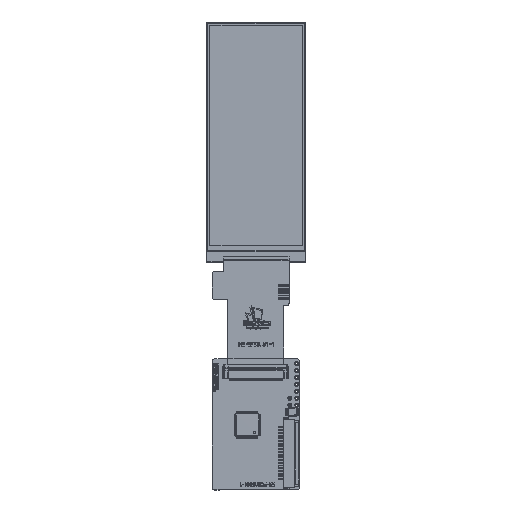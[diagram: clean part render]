
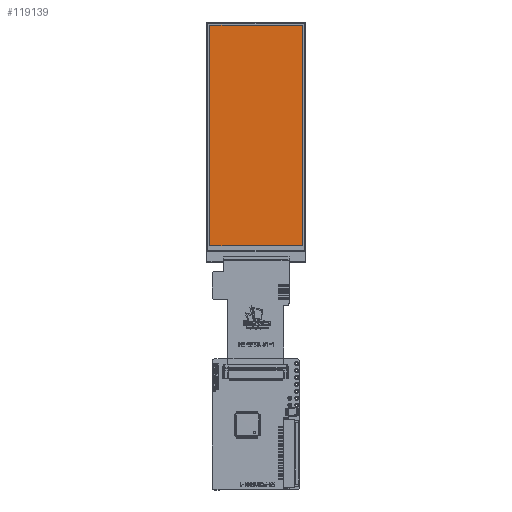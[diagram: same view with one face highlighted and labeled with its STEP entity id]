
A CAD part, top view. The second image highlights one B-rep face of the part: STEP entity #119139.
In plain terms, the highlighted planar face has unit normal (0, 0, 1).
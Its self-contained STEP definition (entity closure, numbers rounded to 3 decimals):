
#1124 = DIRECTION ( 'NONE',  ( 0., 1., 0. ) ) ;
#1513 = CARTESIAN_POINT ( 'NONE',  ( -16.915, -38.025, 1.6 ) ) ;
#14090 = VERTEX_POINT ( 'NONE', #1513 ) ;
#16382 = CARTESIAN_POINT ( 'NONE',  ( 17.055, 42.975, 1.6 ) ) ;
#16502 = LINE ( 'NONE', #231766, #243045 ) ;
#22671 = ORIENTED_EDGE ( 'NONE', *, *, #57343, .F. ) ;
#25768 = LINE ( 'NONE', #85362, #176699 ) ;
#30682 = PLANE ( 'NONE',  #116628 ) ;
#34757 = EDGE_CURVE ( 'NONE', #48444, #14090, #56572, .T. ) ;
#44979 = CARTESIAN_POINT ( 'NONE',  ( -16.915, 0., 1.6 ) ) ;
#48444 = VERTEX_POINT ( 'NONE', #61835 ) ;
#56572 = LINE ( 'NONE', #147194, #145069 ) ;
#57343 = EDGE_CURVE ( 'NONE', #206202, #48444, #16502, .T. ) ;
#61835 = CARTESIAN_POINT ( 'NONE',  ( 17.055, -38.025, 1.6 ) ) ;
#62216 = CARTESIAN_POINT ( 'NONE',  ( -16.915, 42.975, 1.6 ) ) ;
#85362 = CARTESIAN_POINT ( 'NONE',  ( 0., 42.975, 1.6 ) ) ;
#101392 = ORIENTED_EDGE ( 'NONE', *, *, #140667, .F. ) ;
#104965 = ORIENTED_EDGE ( 'NONE', *, *, #230223, .F. ) ;
#111509 = DIRECTION ( 'NONE',  ( 0., 0., 1. ) ) ;
#111551 = LINE ( 'NONE', #44979, #113584 ) ;
#113584 = VECTOR ( 'NONE', #1124, 1000. ) ;
#116628 = AXIS2_PLACEMENT_3D ( 'NONE', #247313, #111509, #245940 ) ;
#119139 = ADVANCED_FACE ( 'NONE', ( #264391 ), #30682, .T. ) ;
#140667 = EDGE_CURVE ( 'NONE', #14090, #210687, #111551, .T. ) ;
#143037 = DIRECTION ( 'NONE',  ( -1., 0., 0. ) ) ;
#145069 = VECTOR ( 'NONE', #143037, 1000. ) ;
#147194 = CARTESIAN_POINT ( 'NONE',  ( 0., -38.025, 1.6 ) ) ;
#160229 = EDGE_LOOP ( 'NONE', ( #101392, #180830, #22671, #104965 ) ) ;
#171666 = DIRECTION ( 'NONE',  ( 1., 0., 0. ) ) ;
#176699 = VECTOR ( 'NONE', #171666, 1000. ) ;
#180830 = ORIENTED_EDGE ( 'NONE', *, *, #34757, .F. ) ;
#206202 = VERTEX_POINT ( 'NONE', #16382 ) ;
#210687 = VERTEX_POINT ( 'NONE', #62216 ) ;
#213202 = DIRECTION ( 'NONE',  ( 0., -1., 0. ) ) ;
#230223 = EDGE_CURVE ( 'NONE', #210687, #206202, #25768, .T. ) ;
#231766 = CARTESIAN_POINT ( 'NONE',  ( 17.055, 0., 1.6 ) ) ;
#243045 = VECTOR ( 'NONE', #213202, 1000. ) ;
#245940 = DIRECTION ( 'NONE',  ( 1., 0., 0. ) ) ;
#247313 = CARTESIAN_POINT ( 'NONE',  ( 0., 0., 1.6 ) ) ;
#264391 = FACE_OUTER_BOUND ( 'NONE', #160229, .T. ) ;
